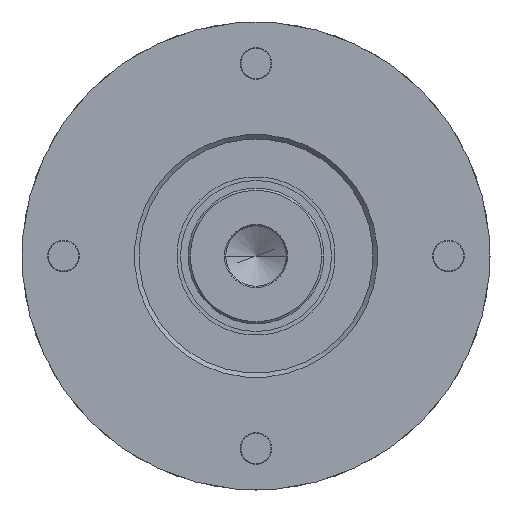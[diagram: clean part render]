
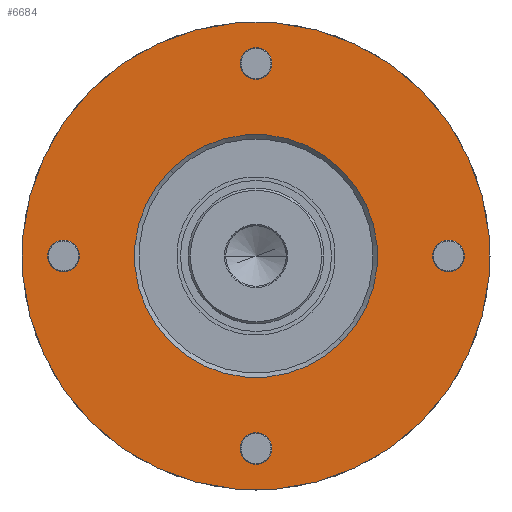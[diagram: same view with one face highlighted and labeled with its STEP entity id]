
A CAD part, left-side view. The second image highlights one B-rep face of the part: STEP entity #6684.
In plain terms, the highlighted planar face has unit normal (-1, 0, 0).
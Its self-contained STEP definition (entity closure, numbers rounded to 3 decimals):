
#5993=CARTESIAN_POINT('',(0.,0.,0.));
#5994=DIRECTION('',(-1.,0.,0.));
#5995=DIRECTION('',(0.,1.,0.));
#5996=AXIS2_PLACEMENT_3D('',#5993,#5994,#5995);
#6001=CARTESIAN_POINT('',(0.,0.,0.));
#6002=DIRECTION('',(1.,0.,0.));
#6003=DIRECTION('',(0.,1.,0.));
#6004=AXIS2_PLACEMENT_3D('',#6001,#6002,#6003);
#6009=CARTESIAN_POINT('',(0.,0.,0.));
#6010=DIRECTION('',(-1.,0.,0.));
#6011=DIRECTION('',(0.,-1.,0.));
#6012=AXIS2_PLACEMENT_3D('',#6009,#6010,#6011);
#6017=CARTESIAN_POINT('',(0.,0.,0.));
#6018=DIRECTION('',(-1.,0.,0.));
#6019=DIRECTION('',(0.,1.,0.));
#6020=AXIS2_PLACEMENT_3D('',#6017,#6018,#6019);
#6025=CARTESIAN_POINT('',(0.,18.031,-18.031));
#6026=DIRECTION('',(1.,0.,0.));
#6027=DIRECTION('',(0.,-1.,0.));
#6028=AXIS2_PLACEMENT_3D('',#6025,#6026,#6027);
#6033=CARTESIAN_POINT('',(0.,18.031,-18.031));
#6034=DIRECTION('',(1.,0.,0.));
#6035=DIRECTION('',(0.,1.,0.));
#6036=AXIS2_PLACEMENT_3D('',#6033,#6034,#6035);
#6041=CARTESIAN_POINT('',(0.,18.031,18.031));
#6042=DIRECTION('',(1.,0.,0.));
#6043=DIRECTION('',(0.,-1.,0.));
#6044=AXIS2_PLACEMENT_3D('',#6041,#6042,#6043);
#6049=CARTESIAN_POINT('',(0.,18.031,18.031));
#6050=DIRECTION('',(1.,0.,0.));
#6051=DIRECTION('',(0.,1.,0.));
#6052=AXIS2_PLACEMENT_3D('',#6049,#6050,#6051);
#6057=CARTESIAN_POINT('',(0.,-18.031,18.031));
#6058=DIRECTION('',(1.,0.,0.));
#6059=DIRECTION('',(0.,-1.,0.));
#6060=AXIS2_PLACEMENT_3D('',#6057,#6058,#6059);
#6065=CARTESIAN_POINT('',(0.,-18.031,18.031));
#6066=DIRECTION('',(1.,0.,0.));
#6067=DIRECTION('',(0.,1.,0.));
#6068=AXIS2_PLACEMENT_3D('',#6065,#6066,#6067);
#6073=CARTESIAN_POINT('',(0.,-18.031,-18.031));
#6074=DIRECTION('',(1.,0.,0.));
#6075=DIRECTION('',(0.,-1.,0.));
#6076=AXIS2_PLACEMENT_3D('',#6073,#6074,#6075);
#6081=CARTESIAN_POINT('',(0.,-18.031,-18.031));
#6082=DIRECTION('',(1.,0.,0.));
#6083=DIRECTION('',(0.,1.,0.));
#6084=AXIS2_PLACEMENT_3D('',#6081,#6082,#6083);
#6289=CARTESIAN_POINT('',(0.,15.931,-18.031));
#6290=CARTESIAN_POINT('',(0.,20.131,-18.031));
#6291=VERTEX_POINT('',#6289);
#6292=VERTEX_POINT('',#6290);
#6293=CARTESIAN_POINT('',(0.,15.931,18.031));
#6294=CARTESIAN_POINT('',(0.,20.131,18.031));
#6295=VERTEX_POINT('',#6293);
#6296=VERTEX_POINT('',#6294);
#6297=CARTESIAN_POINT('',(0.,-20.131,18.031));
#6298=CARTESIAN_POINT('',(0.,-15.931,18.031));
#6299=VERTEX_POINT('',#6297);
#6300=VERTEX_POINT('',#6298);
#6301=CARTESIAN_POINT('',(0.,-20.131,-18.031));
#6302=CARTESIAN_POINT('',(0.,-15.931,-18.031));
#6303=VERTEX_POINT('',#6301);
#6304=VERTEX_POINT('',#6302);
#6305=CARTESIAN_POINT('',(0.,31.,0.));
#6306=CARTESIAN_POINT('',(0.,-31.,0.));
#6307=VERTEX_POINT('',#6305);
#6308=VERTEX_POINT('',#6306);
#6317=CARTESIAN_POINT('',(0.,-16.1,0.));
#6318=CARTESIAN_POINT('',(0.,16.1,0.));
#6319=VERTEX_POINT('',#6317);
#6320=VERTEX_POINT('',#6318);
#6647=CARTESIAN_POINT('',(0.,0.,0.));
#6648=DIRECTION('',(1.,0.,0.));
#6649=DIRECTION('',(0.,-1.,0.));
#6650=AXIS2_PLACEMENT_3D('',#6647,#6648,#6649);
#6651=PLANE('',#6650);
#6652=ORIENTED_EDGE('',*,*,#6614,.F.);
#6653=ORIENTED_EDGE('',*,*,#6629,.T.);
#6654=EDGE_LOOP('',(#6652,#6653));
#6655=FACE_OUTER_BOUND('',#6654,.F.);
#6656=ORIENTED_EDGE('',*,*,#6385,.T.);
#6657=ORIENTED_EDGE('',*,*,#6400,.T.);
#6658=EDGE_LOOP('',(#6656,#6657));
#6659=FACE_BOUND('',#6658,.F.);
#6661=ORIENTED_EDGE('',*,*,#6660,.F.);
#6663=ORIENTED_EDGE('',*,*,#6662,.F.);
#6664=EDGE_LOOP('',(#6661,#6663));
#6665=FACE_BOUND('',#6664,.F.);
#6667=ORIENTED_EDGE('',*,*,#6666,.F.);
#6669=ORIENTED_EDGE('',*,*,#6668,.F.);
#6670=EDGE_LOOP('',(#6667,#6669));
#6671=FACE_BOUND('',#6670,.F.);
#6673=ORIENTED_EDGE('',*,*,#6672,.F.);
#6675=ORIENTED_EDGE('',*,*,#6674,.F.);
#6676=EDGE_LOOP('',(#6673,#6675));
#6677=FACE_BOUND('',#6676,.F.);
#6679=ORIENTED_EDGE('',*,*,#6678,.F.);
#6681=ORIENTED_EDGE('',*,*,#6680,.F.);
#6682=EDGE_LOOP('',(#6679,#6681));
#6683=FACE_BOUND('',#6682,.F.);
#5997=CIRCLE('',#5996,31.);
#6005=CIRCLE('',#6004,31.);
#6013=CIRCLE('',#6012,16.1);
#6021=CIRCLE('',#6020,16.1);
#6029=CIRCLE('',#6028,2.1);
#6037=CIRCLE('',#6036,2.1);
#6045=CIRCLE('',#6044,2.1);
#6053=CIRCLE('',#6052,2.1);
#6061=CIRCLE('',#6060,2.1);
#6069=CIRCLE('',#6068,2.1);
#6077=CIRCLE('',#6076,2.1);
#6085=CIRCLE('',#6084,2.1);
#6385=EDGE_CURVE('',#6319,#6320,#6013,.T.);
#6400=EDGE_CURVE('',#6320,#6319,#6021,.T.);
#6614=EDGE_CURVE('',#6307,#6308,#5997,.T.);
#6629=EDGE_CURVE('',#6307,#6308,#6005,.T.);
#6660=EDGE_CURVE('',#6291,#6292,#6029,.T.);
#6662=EDGE_CURVE('',#6292,#6291,#6037,.T.);
#6666=EDGE_CURVE('',#6295,#6296,#6045,.T.);
#6668=EDGE_CURVE('',#6296,#6295,#6053,.T.);
#6672=EDGE_CURVE('',#6299,#6300,#6061,.T.);
#6674=EDGE_CURVE('',#6300,#6299,#6069,.T.);
#6678=EDGE_CURVE('',#6303,#6304,#6077,.T.);
#6680=EDGE_CURVE('',#6304,#6303,#6085,.T.);
#6684=ADVANCED_FACE('',(#6655,#6659,#6665,#6671,#6677,#6683),#6651,.F.);
